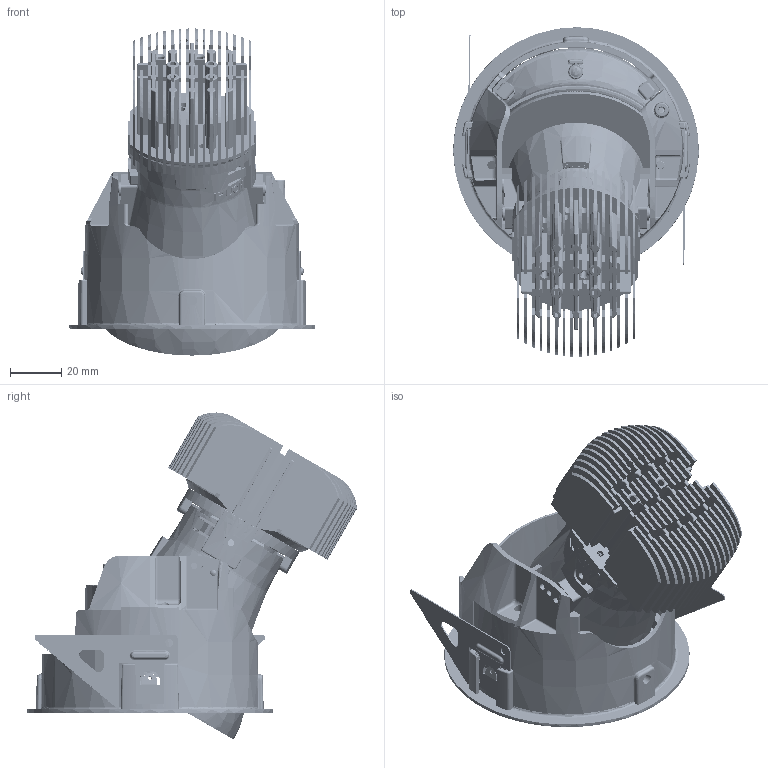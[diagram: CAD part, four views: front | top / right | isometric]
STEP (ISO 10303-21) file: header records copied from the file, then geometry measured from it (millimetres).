
FILE_DESCRIPTION(('CATIA V5 STEP Exchange'),'2;1');
FILE_NAME('C:\Users\stefano.giovinetto\Desktop\X.TP1C - M PRO Wall Washer Round Trim Drop.stp','2020-10-29T08:39:19+00:00',('none'),('none'),'CATIA Version 5 Release 20 SP 7 (IN-10)','CATIA V5 STEP AP203','none');
FILE_SCHEMA(('CONFIG_CONTROL_DESIGN'));
Length unit declared in the file: millimetre
Products named in the file (1): 0.0000_AllCATPart
Bounding box: 95.98 x 128.96 x 127.92 mm (x, y, z)
Volume: 166288.1 mm3; surface area: 202716.8 mm2
Topology: 48 solids, 99 shells, 16429 faces, 46745 edges, 28767 vertices
Faces by surface type: plane 9542, cylinder 2654, sphere 2032, bspline 1132, cone 486, torus 456, extrusion 123, revolution 4
Entity records: 671273 total; most frequent: CARTESIAN_POINT 281440, ORIENTED_EDGE 88974, DIRECTION 65187, EDGE_CURVE 44738, VERTEX_POINT 28764, VECTOR 28606, LINE 28483, AXIS2_PLACEMENT_3D 21429
